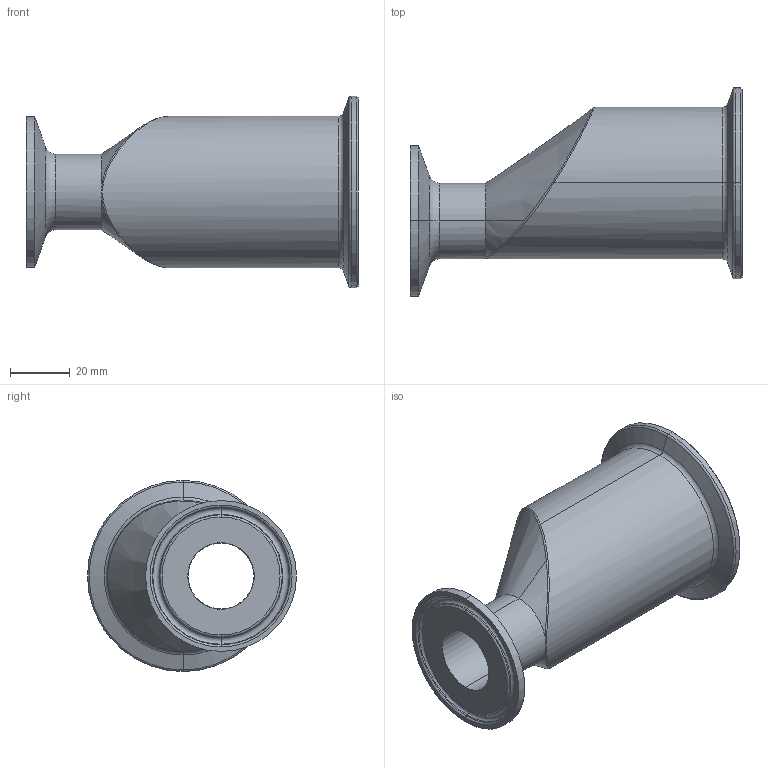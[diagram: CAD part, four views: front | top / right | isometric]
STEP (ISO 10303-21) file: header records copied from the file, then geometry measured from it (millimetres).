
FILE_DESCRIPTION (( 'STEP AP214' ), '1' );
FILE_NAME ('TEG32SCC6L2.0x1.0-...STEP', '2016-06-01T12:55:51', ( 'eran' ), ( '' ), 'SwSTEP 2.0', 'SolidWorks 2016', '' );
FILE_SCHEMA (( 'AUTOMOTIVE_DESIGN' ));
Length unit declared in the file: millimetre
Products named in the file (1): TEG32SCC6L2.0x1.0-..
Bounding box: 111.12 x 69.95 x 64 mm (x, y, z)
Volume: 93295.7 mm3; surface area: 31369.6 mm2
Topology: 1 solids, 1 shells, 70 faces, 150 edges, 82 vertices
Faces by surface type: cone 27, torus 21, cylinder 15, plane 4, bspline 3
Entity records: 2690 total; most frequent: CARTESIAN_POINT 1146, DIRECTION 352, ORIENTED_EDGE 296, AXIS2_PLACEMENT_3D 157, EDGE_CURVE 148, CIRCLE 89, VERTEX_POINT 82, EDGE_LOOP 74
